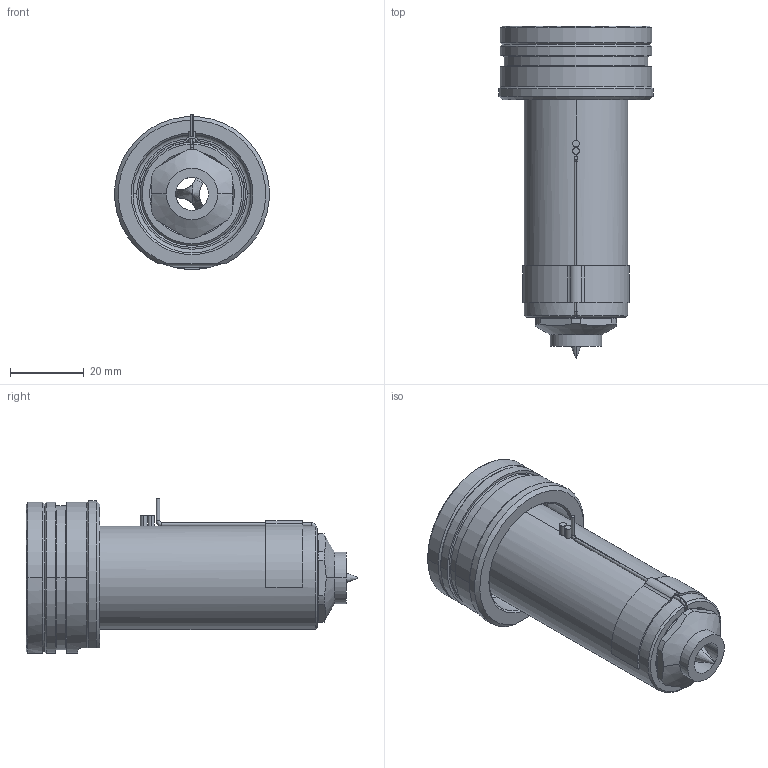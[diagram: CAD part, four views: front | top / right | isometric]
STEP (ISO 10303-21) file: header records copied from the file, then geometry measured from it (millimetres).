
FILE_DESCRIPTION((''),'2;1');
FILE_NAME('EO10_PG-BL_WR_070_SW','2024-02-19T11:09:45',('sundharh'),(''),'CREO PARAMETRIC BY PTC INC, 2023154','CREO PARAMETRIC BY PTC INC, 2023154','');
FILE_SCHEMA(('CONFIG_CONTROL_DESIGN'));
Length unit declared in the file: millimetre
Products named in the file (1): EO10_PG-BL_WR_070_SW
Bounding box: 41.85 x 90 x 42.02 mm (x, y, z)
Volume: 56471.9 mm3; surface area: 17552.9 mm2
Topology: 1 solids, 1 shells, 196 faces, 532 edges, 332 vertices
Faces by surface type: cylinder 78, plane 59, cone 37, torus 17, bspline 3, sphere 2
Entity records: 7209 total; most frequent: CARTESIAN_POINT 2150, DIRECTION 1102, ORIENTED_EDGE 1060, EDGE_CURVE 530, AXIS2_PLACEMENT_3D 459, VERTEX_POINT 332, CIRCLE 266, EDGE_LOOP 212
